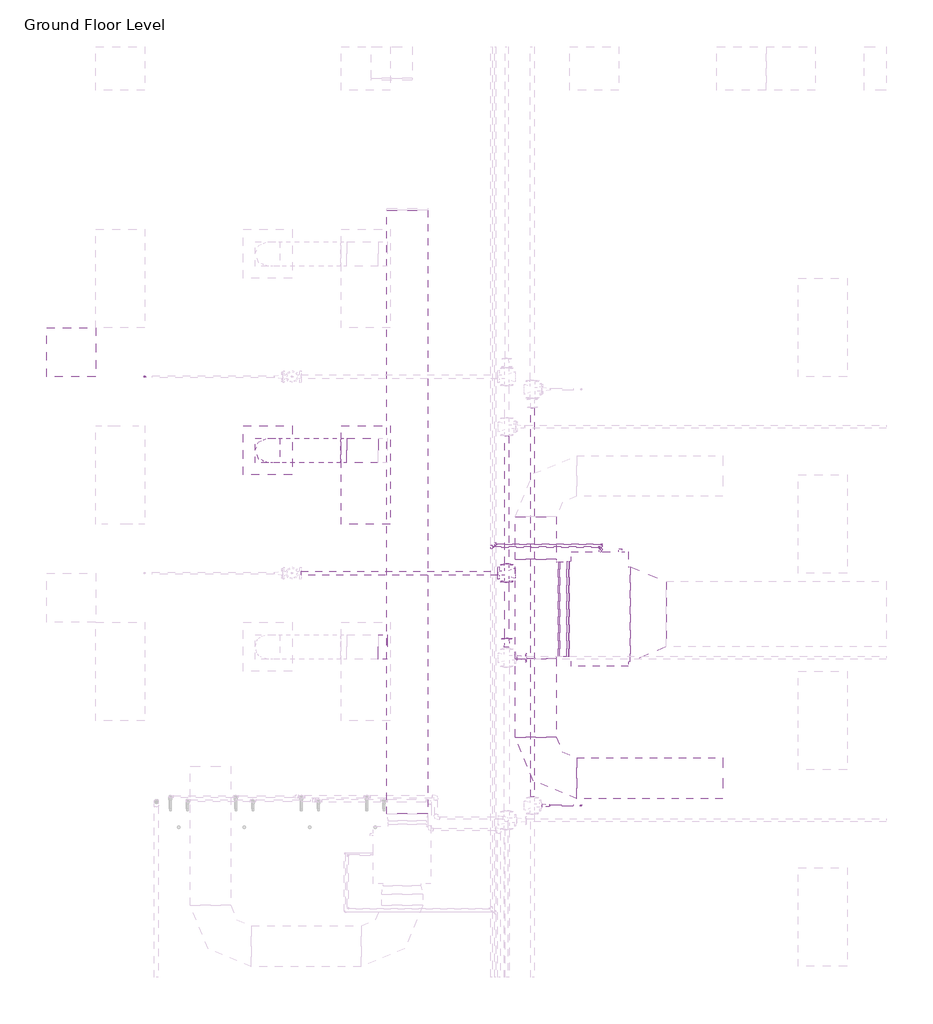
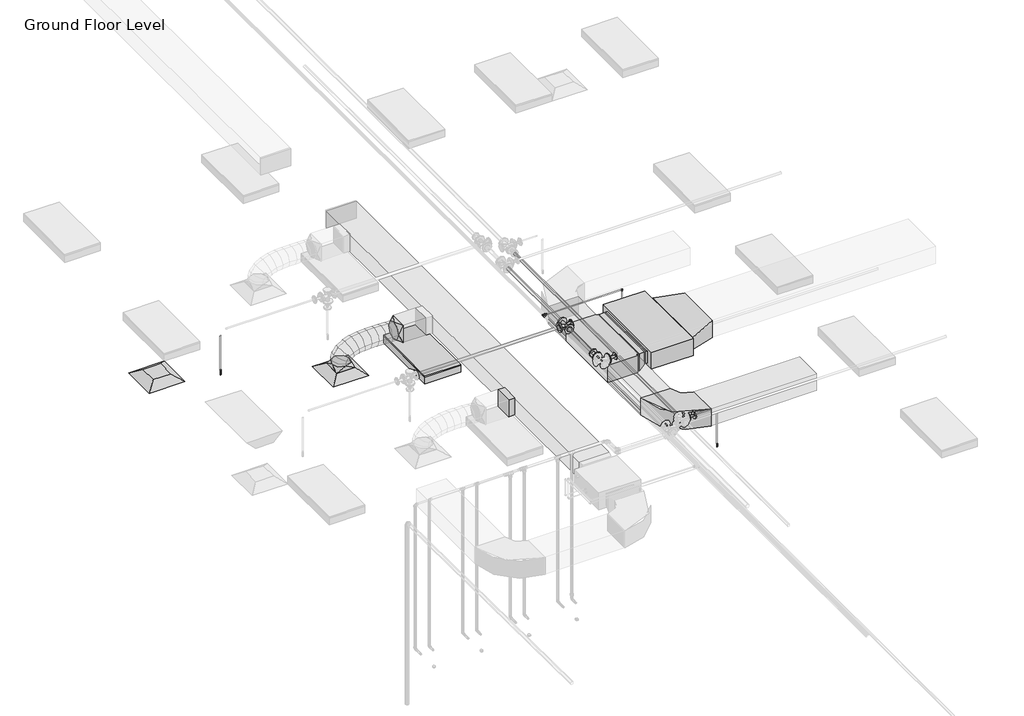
# One storey, part 26 of 75: 14 pipe fittings, 13 pipe segments, 8 duct fittings, 8 duct segments, 2 air terminals, 2 fire suppression terminals, 1 light fixture, 1 proxy.
"""IFC4 building model written with IfcOpenShell, lengths in millimetres."""

from ifc_helpers import new_model, si_unit, point, frame, frame_2d, origin, place, context, project, spatial, polyline, circle_curve, ellipse_curve, trimmed, segment, composite_curve, outline, extrude, transform, mapped, element, save
from ifc_brep_helpers import plane_surface, cylinder_surface, advanced_brep
from components import m_return_diffuser_600_x_600_face_300_x_300_connection_ff221211, fcu_daikin_iu_5a1bd61d, m_rectangular_elbow_radius_1_w_abe20169, m_rectangular_takeoff_standard_cb0ccb98, m_rectangular_tee_standard_c717c13b, m_rectangular_transition_angle_45_degree_d2868699, m_rectangular_transition_angle_45_degree_3270bfc3, m_rectangular_transition_angle_45_degree_83bbb609, m_rectangular_to_round_transition_angle_45_degree_641efff0, m_sprinkler_dry_pendent_hosted_15_mm_dry_pendent_9bda8e11, m_sprinkler_pendent_15_mm_pendent_06fcbd8e, m_troffer_light_parabolic_rectangular1_0600x1200mm_4_lamp_86473d4a, m_elbow_generic_standard_a088f956, m_elbow_generic_standard_2a704253, m_elbow_generic_standard_411ee063, m_elbow_generic_standard_a67d3ed8, m_reducer_flanged_cs_class_150_standard_cc2a7c1d, m_reducer_flanged_cs_class_150_standard_3ab32b2b, m_reducer_flanged_cs_class_150_standard_a7631c35, m_tee_generic_standard_5b2ed4d4, m_tee_generic_standard_5078887e, m_tee_round_base_flanged_cs_class_150_standard_ab36f383, m_transition_generic_standard_5f8a9689, m_transition_generic_standard_bdcfe2c1, m_transition_generic_standard_44e35838, m_transition_generic_standard_570aa73b

model = new_model("IFC4")

# Units and contexts
model_context = context("Model", 3, world=origin())
ifc_project = project(units=[si_unit("LENGTHUNIT", "METRE", prefix="MILLI")], contexts=[model_context])

# Site, building, storey
site = spatial("IfcSite", under=ifc_project)
building = spatial("IfcBuilding", under=site)
storey = spatial("IfcBuildingStorey", under=building, Name="Ground Floor Level", Elevation=900.0)

# Air terminals
placement = place(None, origin())
m_return_diffuser_600_x_600_face_300_x_300_connection_shape = m_return_diffuser_600_x_600_face_300_x_300_connection_ff221211(model_context)
element("IfcAirTerminal", 1, ObjectType="M_Return Diffuser : 600 x 600 Face 300 x 300 Connection", at=placement, inside=storey, context=model_context, shape_type="MappedRepresentation", body=[
    mapped(m_return_diffuser_600_x_600_face_300_x_300_connection_shape, transform((362.7672395, -18364.7846466, 3650.0), x_axis=(1.0, 0.0, 0.0), y_axis=(0.0, 1.0, 0.0), z_axis=(0.0, 0.0, 1.0))),
])
element("IfcAirTerminal", 2, ObjectType="M_Supply Diffuser : 600 x 600 Face 300 x 300 Connection", at=placement, inside=storey, context=model_context, shape_type="MappedRepresentation", body=[
    mapped(m_return_diffuser_600_x_600_face_300_x_300_connection_shape, transform((2762.7672395, -19564.7846466, 3650.0), x_axis=(1.0, 0.0, 0.0), y_axis=(0.0, 1.0, 0.0), z_axis=(0.0, 0.0, 1.0))),
])

# Proxy
fcu_daikin_iu_shape = fcu_daikin_iu_5a1bd61d(model_context)
element("IfcBuildingElementProxy", 3, Name="FCU-DAIKIN IU : 9kW, 230V/50Hz/1Ph", ObjectType="FCU-DAIKIN IU : 9kW, 230V/50Hz/1Ph", at=placement, inside=storey, context=model_context, shape_type="MappedRepresentation", body=[
    mapped(fcu_daikin_iu_shape, transform((6820.4959647, -21503.0689179, 3984.0882279), x_axis=(0.0, 1.0, 0.0), y_axis=(-1.0, 0.0, 0.0), z_axis=(0.0, 0.0, 1.0))),
])

# Duct fittings
m_rectangular_elbow_radius_1_w_shape = m_rectangular_elbow_radius_1_w_abe20169(model_context)
element("IfcDuctFitting", 4, ObjectType="M_Rectangular Elbow - Radius : 1 W", at=placement, inside=storey, context=model_context, shape_type="MappedRepresentation", body=[
    mapped(m_rectangular_elbow_radius_1_w_shape, transform((6040.9897768, -23568.5689179, 4082.4543707), x_axis=(0.0, -1.0, 0.0), y_axis=(1.0, 0.0, 0.0), z_axis=(0.0, 0.0, 1.0))),
])
m_rectangular_takeoff_standard_shape = m_rectangular_takeoff_standard_cb0ccb98(model_context)
element("IfcDuctFitting", 5, ObjectType="M_Rectangular Takeoff : Standard", at=placement, inside=storey, context=model_context, shape_type="MappedRepresentation", body=[
    mapped(m_rectangular_takeoff_standard_shape, transform((4219.1581832, -21964.7846466, 4057.1519579), x_axis=(-1.0, 0.0, 0.0), y_axis=(0.0, 1.0, 0.0), z_axis=(0.0, 0.0, -1.0))),
])
m_rectangular_tee_standard_shape = m_rectangular_tee_standard_c717c13b(model_context)
element("IfcDuctFitting", 6, ObjectType="M_Rectangular Tee : Standard", at=placement, inside=storey, context=model_context, shape_type="MappedRepresentation", body=[
    mapped(m_rectangular_tee_standard_shape, transform((6040.9973279, -21503.0689179, 4082.4405262), x_axis=(0.0, -1.0, 0.0), y_axis=(-1.0, 0.0, 0.0), z_axis=(0.0, 0.0, -1.0))),
])
m_rectangular_transition_angle_45_degree_shape = m_rectangular_transition_angle_45_degree_d2868699(model_context)
element("IfcDuctFitting", 7, ObjectType="M_Rectangular Transition - Angle : 45 Degree", at=placement, inside=storey, context=model_context, shape_type="MappedRepresentation", body=[
    mapped(m_rectangular_transition_angle_45_degree_shape, transform((7195.8959647, -21566.5689179, 4150.0007279), x_axis=(1.0, 0.0, 0.0), y_axis=(0.0, 1.0, 0.0), z_axis=(0.0, 0.0, 1.0))),
])
m_rectangular_transition_angle_45_degree_2_shape = m_rectangular_transition_angle_45_degree_3270bfc3(model_context)
element("IfcDuctFitting", 8, ObjectType="M_Rectangular Transition - Angle : 45 Degree", at=placement, inside=storey, context=model_context, shape_type="MappedRepresentation", body=[
    mapped(m_rectangular_transition_angle_45_degree_2_shape, transform((6445.0959647, -21503.0689179, 4125.2882279), x_axis=(-1.0, 0.0, 0.0), y_axis=(0.0, -1.0, 0.0), z_axis=(0.0, 0.0, 1.0))),
])
m_rectangular_transition_angle_45_degree_3_shape = m_rectangular_transition_angle_45_degree_83bbb609(model_context)
element("IfcDuctFitting", 9, ObjectType="M_Rectangular Transition - Angle : 45 Degree", at=placement, inside=storey, context=model_context, shape_type="MappedRepresentation", body=[
    mapped(m_rectangular_transition_angle_45_degree_3_shape, transform((6416.9897764, -21503.0689179, 4125.4405264), x_axis=(-1.0, 0.0, 0.0), y_axis=(0.0, -1.0, 0.0), z_axis=(0.0, 0.0, 1.0))),
])
m_rectangular_to_round_transition_angle_45_degree_shape = m_rectangular_to_round_transition_angle_45_degree_641efff0(model_context)
element("IfcDuctFitting", 10, ObjectType="M_Rectangular to Round Transition - Angle : 45 Degree", at=placement, inside=storey, context=model_context, shape_type="MappedRepresentation", body=[
    mapped(m_rectangular_to_round_transition_angle_45_degree_shape, transform((2762.7672395, -19564.7846466, 3751.6), x_axis=(0.0, 0.0, 1.0), y_axis=(-1.0, 0.0, 0.0), z_axis=(0.0, -1.0, 0.0))),
])
element("IfcDuctFitting", 11, ObjectType="M_Rectangular to Round Transition - Angle : 45 Degree", at=placement, inside=storey, context=model_context, shape_type="MappedRepresentation", body=[
    mapped(m_rectangular_to_round_transition_angle_45_degree_shape, transform((3732.9552689, -19564.7846466, 4057.1479019), x_axis=(-1.0, 0.0, 0.0), y_axis=(0.0, -1.0, 0.0), z_axis=(0.0, 0.0, 1.0))),
])

# Duct segments
element("IfcDuctSegment", 12, ObjectType="Flex - Round", at=placement, inside=storey, context=model_context, shape_type="AdvancedBrep", body=[
    advanced_brep(
    [(2912.7672395, -19564.7846466, 3826.6), (2762.7672395, -19714.7846466, 3826.6), (2612.7672395, -19564.7846466, 3826.6), (2762.7672395, -19414.7846466, 3826.6), (2912.7672395, -19564.7846466, 3832.8904098), (2762.7672395, -19714.7846466, 3856.8495224), (2612.7672395, -19564.7846466, 3880.8086351), (2762.7672395, -19414.7846466, 3856.8495224), (2914.0858346, -19564.7846466, 3836.9127437), (2779.5129112, -19714.7846466, 3907.9316792), (2644.9399878, -19564.7846466, 3978.9506146), (2779.5129112, -19414.7846466, 3907.9316792), (2928.1335887, -19564.7846466, 3855.2238886), (2826.2860191, -19714.7846466, 3968.9000837), (2724.4384494, -19564.7846466, 4082.5762788), (2826.2860191, -19414.7846466, 3968.9000837), (2960.0751433, -19564.7846466, 3874.5771306), (2897.8907021, -19714.7846466, 4012.2850341), (2835.706261, -19564.7846466, 4149.9929377), (2897.8907021, -19414.7846466, 4012.2850341), (3023.3472749, -19564.7846466, 3894.3973079), (2989.1310994, -19714.7846466, 4040.8663511), (2954.9149239, -19564.7846466, 4187.3353943), (2989.1310994, -19414.7846466, 4040.8663511), (3111.2181676, -19564.7846466, 3908.1645223), (3094.81135, -19714.7846466, 4057.4238552), (3078.4045323, -19564.7846466, 4206.6831881), (3094.81135, -19414.7846466, 4057.4238552), (3215.0384102, -19564.7846466, 3914.7714012), (3209.7355929, -19714.7846466, 4064.7373669), (3204.4327755, -19564.7846466, 4214.7033325), (3209.7355929, -19414.7846466, 4064.7373669), (3327.4389939, -19564.7846466, 3915.5738253), (3328.7079672, -19714.7846466, 4065.5867068), (3329.9769404, -19564.7846466, 4215.5995883), (3328.7079672, -19414.7846466, 4065.5867068), (3442.2140413, -19564.7846466, 3912.8121913), (3446.5326119, -19714.7846466, 4062.7516956), (3450.8511825, -19564.7846466, 4212.6911999), (3446.5326119, -19414.7846466, 4062.7516956), (3554.0600336, -19564.7846466, 3909.0604079), (3558.0136661, -19714.7846466, 4059.0121538), (3561.9672986, -19564.7846466, 4208.9638996), (3558.0136661, -19414.7846466, 4059.0121538), (3657.9552689, -19564.7846466, 3907.1479019), (3657.9552689, -19414.7846466, 4057.1479019), (3657.9552689, -19564.7846466, 4207.1479019), (3657.9552689, -19714.7846466, 4057.1479019), (3653.7185823, -19564.7846466, 3907.1479019), (3655.1577438, -19714.7846466, 4057.1479019), (3656.5969053, -19564.7846466, 4207.1479019), (3655.1577438, -19414.7846466, 4057.1479019)],
    [
        (0, 1, circle_curve(frame((2762.7672395, -19564.7846466, 3826.6), z_axis=(0.0, 0.0, -1.0), x_axis=(1.0, 0.0, 0.0)), 150.0)),
        (1, 2, circle_curve(frame((2762.7672395, -19564.7846466, 3826.6), z_axis=(0.0, 0.0, -1.0), x_axis=(1.0, 0.0, 0.0)), 150.0)),
        (2, 3, circle_curve(frame((2762.7672395, -19564.7846466, 3826.6), z_axis=(0.0, 0.0, -1.0), x_axis=(1.0, 0.0, 0.0)), 150.0)),
        (3, 0, circle_curve(frame((2762.7672395, -19564.7846466, 3826.6), z_axis=(0.0, 0.0, -1.0), x_axis=(1.0, 0.0, 0.0)), 150.0)),
        (0, 4),
        (4, 5, ellipse_curve(frame((2762.7672395, -19564.7846466, 3856.8495224), z_axis=(-0.157728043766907, 0.0, -0.9874825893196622), x_axis=(0.9874825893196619, 0.0, -0.15772804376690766)), 151.9014124, 150.0)),
        (5, 1),
        (5, 6, ellipse_curve(frame((2762.7672395, -19564.7846466, 3856.8495224), z_axis=(-0.157728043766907, 0.0, -0.9874825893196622), x_axis=(0.9874825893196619, 0.0, -0.15772804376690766)), 151.9014124, 150.0)),
        (6, 2),
        (6, 7, ellipse_curve(frame((2762.7672395, -19564.7846466, 3856.8495224), z_axis=(-0.157728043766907, 0.0, -0.9874825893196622), x_axis=(0.9874825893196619, 0.0, -0.15772804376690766)), 151.9014124, 150.0)),
        (7, 3),
        (7, 4, ellipse_curve(frame((2762.7672395, -19564.7846466, 3856.8495224), z_axis=(-0.157728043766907, 0.0, -0.9874825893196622), x_axis=(0.9874825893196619, 0.0, -0.15772804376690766)), 151.9014124, 150.0)),
        (4, 8),
        (8, 9, ellipse_curve(frame((2779.5129112, -19564.7846466, 3907.9316792), z_axis=(-0.4667295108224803, 0.0, -0.8844001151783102), x_axis=(0.8844001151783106, 0.0, -0.46672951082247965)), 152.162942, 150.0)),
        (9, 5),
        (9, 10, ellipse_curve(frame((2779.5129112, -19564.7846466, 3907.9316792), z_axis=(-0.4667295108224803, 0.0, -0.8844001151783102), x_axis=(0.8844001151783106, 0.0, -0.46672951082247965)), 152.162942, 150.0)),
        (10, 6),
        (10, 11, ellipse_curve(frame((2779.5129112, -19564.7846466, 3907.9316792), z_axis=(-0.4667295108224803, 0.0, -0.8844001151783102), x_axis=(0.8844001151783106, 0.0, -0.46672951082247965)), 152.162942, 150.0)),
        (11, 7),
        (11, 8, ellipse_curve(frame((2779.5129112, -19564.7846466, 3907.9316792), z_axis=(-0.4667295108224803, 0.0, -0.8844001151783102), x_axis=(0.8844001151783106, 0.0, -0.46672951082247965)), 152.162942, 150.0)),
        (8, 12),
        (12, 13, ellipse_curve(frame((2826.2860191, -19564.7846466, 3968.9000837), z_axis=(-0.7447941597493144, 0.0, -0.667294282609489), x_axis=(0.6672942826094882, 0.0, -0.7447941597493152)), 152.6276671, 150.0)),
        (13, 9),
        (13, 14, ellipse_curve(frame((2826.2860191, -19564.7846466, 3968.9000837), z_axis=(-0.7447941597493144, 0.0, -0.667294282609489), x_axis=(0.6672942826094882, 0.0, -0.7447941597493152)), 152.6276671, 150.0)),
        (14, 10),
        (14, 15, ellipse_curve(frame((2826.2860191, -19564.7846466, 3968.9000837), z_axis=(-0.7447941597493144, 0.0, -0.667294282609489), x_axis=(0.6672942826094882, 0.0, -0.7447941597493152)), 152.6276671, 150.0)),
        (15, 11),
        (15, 12, ellipse_curve(frame((2826.2860191, -19564.7846466, 3968.9000837), z_axis=(-0.7447941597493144, 0.0, -0.667294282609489), x_axis=(0.6672942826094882, 0.0, -0.7447941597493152)), 152.6276671, 150.0)),
        (12, 16),
        (16, 17, ellipse_curve(frame((2897.8907021, -19564.7846466, 4012.2850341), z_axis=(-0.9113860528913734, 0.0, -0.4115525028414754), x_axis=(0.4115525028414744, 0.0, -0.911386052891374)), 151.097225, 150.0)),
        (17, 13),
        (17, 18, ellipse_curve(frame((2897.8907021, -19564.7846466, 4012.2850341), z_axis=(-0.9113860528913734, 0.0, -0.4115525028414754), x_axis=(0.4115525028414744, 0.0, -0.911386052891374)), 151.097225, 150.0)),
        (18, 14),
        (18, 19, ellipse_curve(frame((2897.8907021, -19564.7846466, 4012.2850341), z_axis=(-0.9113860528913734, 0.0, -0.4115525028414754), x_axis=(0.4115525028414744, 0.0, -0.911386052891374)), 151.097225, 150.0)),
        (19, 15),
        (19, 16, ellipse_curve(frame((2897.8907021, -19564.7846466, 4012.2850341), z_axis=(-0.9113860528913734, 0.0, -0.4115525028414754), x_axis=(0.4115525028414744, 0.0, -0.911386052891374)), 151.097225, 150.0)),
        (16, 20),
        (20, 21, ellipse_curve(frame((2989.1310994, -19564.7846466, 4040.8663511), z_axis=(-0.9737822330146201, 0.0, -0.2274822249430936), x_axis=(0.22748222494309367, 0.0, -0.9737822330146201)), 150.4125237, 150.0)),
        (21, 17),
        (21, 22, ellipse_curve(frame((2989.1310994, -19564.7846466, 4040.8663511), z_axis=(-0.9737822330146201, 0.0, -0.2274822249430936), x_axis=(0.22748222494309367, 0.0, -0.9737822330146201)), 150.4125237, 150.0)),
        (22, 18),
        (22, 23, ellipse_curve(frame((2989.1310994, -19564.7846466, 4040.8663511), z_axis=(-0.9737822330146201, 0.0, -0.2274822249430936), x_axis=(0.22748222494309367, 0.0, -0.9737822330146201)), 150.4125237, 150.0)),
        (23, 19),
        (23, 20, ellipse_curve(frame((2989.1310994, -19564.7846466, 4040.8663511), z_axis=(-0.9737822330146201, 0.0, -0.2274822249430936), x_axis=(0.22748222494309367, 0.0, -0.9737822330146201)), 150.4125237, 150.0)),
        (20, 24),
        (24, 25, ellipse_curve(frame((3094.81135, -19564.7846466, 4057.4238552), z_axis=(-0.9940128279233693, 0.0, -0.10926343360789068), x_axis=(0.10926343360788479, 0.0, -0.9940128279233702)), 150.1583568, 150.0)),
        (25, 21),
        (25, 26, ellipse_curve(frame((3094.81135, -19564.7846466, 4057.4238552), z_axis=(-0.9940128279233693, 0.0, -0.10926343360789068), x_axis=(0.10926343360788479, 0.0, -0.9940128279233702)), 150.1583568, 150.0)),
        (26, 22),
        (26, 27, ellipse_curve(frame((3094.81135, -19564.7846466, 4057.4238552), z_axis=(-0.9940128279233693, 0.0, -0.10926343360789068), x_axis=(0.10926343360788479, 0.0, -0.9940128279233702)), 150.1583568, 150.0)),
        (27, 23),
        (27, 24, ellipse_curve(frame((3094.81135, -19564.7846466, 4057.4238552), z_axis=(-0.9940128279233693, 0.0, -0.10926343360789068), x_axis=(0.10926343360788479, 0.0, -0.9940128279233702)), 150.1583568, 150.0)),
        (24, 28),
        (28, 29, ellipse_curve(frame((3209.7355929, -19564.7846466, 4064.7373669), z_axis=(-0.9993754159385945, 0.0, -0.03533805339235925), x_axis=(0.03533805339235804, 0.0, -0.9993754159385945)), 150.0596906, 150.0)),
        (29, 25),
        (29, 30, ellipse_curve(frame((3209.7355929, -19564.7846466, 4064.7373669), z_axis=(-0.9993754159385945, 0.0, -0.03533805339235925), x_axis=(0.03533805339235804, 0.0, -0.9993754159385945)), 150.0596906, 150.0)),
        (30, 26),
        (30, 31, ellipse_curve(frame((3209.7355929, -19564.7846466, 4064.7373669), z_axis=(-0.9993754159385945, 0.0, -0.03533805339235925), x_axis=(0.03533805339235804, 0.0, -0.9993754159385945)), 150.0596906, 150.0)),
        (31, 27),
        (31, 28, ellipse_curve(frame((3209.7355929, -19564.7846466, 4064.7373669), z_axis=(-0.9993754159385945, 0.0, -0.03533805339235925), x_axis=(0.03533805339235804, 0.0, -0.9993754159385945)), 150.0596906, 150.0)),
        (28, 32),
        (32, 33, ellipse_curve(frame((3328.7079672, -19564.7846466, 4065.5867068), z_axis=(-0.9999642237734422, 0.0, 0.008458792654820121), x_axis=(-0.008458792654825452, 0.0, -0.9999642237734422)), 150.0182486, 150.0)),
        (33, 29),
        (33, 34, ellipse_curve(frame((3328.7079672, -19564.7846466, 4065.5867068), z_axis=(-0.9999642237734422, 0.0, 0.008458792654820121), x_axis=(-0.008458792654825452, 0.0, -0.9999642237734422)), 150.0182486, 150.0)),
        (34, 30),
        (34, 35, ellipse_curve(frame((3328.7079672, -19564.7846466, 4065.5867068), z_axis=(-0.9999642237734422, 0.0, 0.008458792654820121), x_axis=(-0.008458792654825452, 0.0, -0.9999642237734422)), 150.0182486, 150.0)),
        (35, 31),
        (35, 32, ellipse_curve(frame((3328.7079672, -19564.7846466, 4065.5867068), z_axis=(-0.9999642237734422, 0.0, 0.008458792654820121), x_axis=(-0.008458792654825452, 0.0, -0.9999642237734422)), 150.0182486, 150.0)),
        (32, 36),
        (36, 37, ellipse_curve(frame((3446.5326119, -19564.7846466, 4062.7516956), z_axis=(-0.9995854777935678, 0.0, 0.02879014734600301), x_axis=(-0.028790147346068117, 0.0, -0.999585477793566)), 150.0016833, 150.0)),
        (37, 33),
        (37, 38, ellipse_curve(frame((3446.5326119, -19564.7846466, 4062.7516956), z_axis=(-0.9995854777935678, 0.0, 0.02879014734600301), x_axis=(-0.028790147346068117, 0.0, -0.999585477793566)), 150.0016833, 150.0)),
        (38, 34),
        (38, 39, ellipse_curve(frame((3446.5326119, -19564.7846466, 4062.7516956), z_axis=(-0.9995854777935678, 0.0, 0.02879014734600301), x_axis=(-0.028790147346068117, 0.0, -0.999585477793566)), 150.0016833, 150.0)),
        (39, 35),
        (39, 36, ellipse_curve(frame((3446.5326119, -19564.7846466, 4062.7516956), z_axis=(-0.9995854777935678, 0.0, 0.02879014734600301), x_axis=(-0.028790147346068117, 0.0, -0.999585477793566)), 150.0016833, 150.0)),
        (36, 40),
        (40, 41, ellipse_curve(frame((3558.0136661, -19564.7846466, 4059.0121538), z_axis=(-0.999652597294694, 0.0, 0.026356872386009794), x_axis=(0.02635687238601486, 0.0, 0.9996525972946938)), 150.0038576, 150.0)),
        (41, 37),
        (41, 42, ellipse_curve(frame((3558.0136661, -19564.7846466, 4059.0121538), z_axis=(-0.999652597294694, 0.0, 0.026356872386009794), x_axis=(0.02635687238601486, 0.0, 0.9996525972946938)), 150.0038576, 150.0)),
        (42, 38),
        (42, 43, ellipse_curve(frame((3558.0136661, -19564.7846466, 4059.0121538), z_axis=(-0.999652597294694, 0.0, 0.026356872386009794), x_axis=(0.02635687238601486, 0.0, 0.9996525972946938)), 150.0038576, 150.0)),
        (43, 39),
        (43, 40, ellipse_curve(frame((3558.0136661, -19564.7846466, 4059.0121538), z_axis=(-0.999652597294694, 0.0, 0.026356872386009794), x_axis=(0.02635687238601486, 0.0, 0.9996525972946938)), 150.0038576, 150.0)),
        (44, 45, circle_curve(frame((3657.9552689, -19564.7846466, 4057.1479019), z_axis=(1.0, 0.0, 0.0), x_axis=(0.0, 0.0, -1.0)), 150.0)),
        (45, 46, circle_curve(frame((3657.9552689, -19564.7846466, 4057.1479019), z_axis=(1.0, 0.0, 0.0), x_axis=(0.0, 0.0, -1.0)), 150.0)),
        (46, 47, circle_curve(frame((3657.9552689, -19564.7846466, 4057.1479019), z_axis=(1.0, 0.0, 0.0), x_axis=(0.0, 0.0, -1.0)), 150.0)),
        (47, 44, circle_curve(frame((3657.9552689, -19564.7846466, 4057.1479019), z_axis=(1.0, 0.0, 0.0), x_axis=(0.0, 0.0, -1.0)), 150.0)),
        (40, 48),
        (48, 49, ellipse_curve(frame((3655.1577438, -19564.7846466, 4057.1479019), z_axis=(-0.9999539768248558, 0.0, 0.009593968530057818), x_axis=(0.009593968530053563, 0.0, 0.9999539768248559)), 150.0069038, 150.0)),
        (49, 41),
        (49, 50, ellipse_curve(frame((3655.1577438, -19564.7846466, 4057.1479019), z_axis=(-0.9999539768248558, 0.0, 0.009593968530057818), x_axis=(0.009593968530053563, 0.0, 0.9999539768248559)), 150.0069038, 150.0)),
        (50, 42),
        (50, 51, ellipse_curve(frame((3655.1577438, -19564.7846466, 4057.1479019), z_axis=(-0.9999539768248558, 0.0, 0.009593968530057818), x_axis=(0.009593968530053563, 0.0, 0.9999539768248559)), 150.0069038, 150.0)),
        (51, 43),
        (51, 48, ellipse_curve(frame((3655.1577438, -19564.7846466, 4057.1479019), z_axis=(-0.9999539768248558, 0.0, 0.009593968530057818), x_axis=(0.009593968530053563, 0.0, 0.9999539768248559)), 150.0069038, 150.0)),
        (48, 44),
        (47, 49),
        (46, 50),
        (45, 51),
    ],
    [
        plane_surface(frame((2762.7672395, -19714.7846466, 3826.6), z_axis=(0.0, 0.0, -1.0), x_axis=(1.0, 0.0, 0.0))),
        cylinder_surface(frame((2762.7672395, -19564.7846466, 3826.6), z_axis=(0.0, 0.0, -1.0), x_axis=(1.0, 0.0, 0.0)), 150.0),
        cylinder_surface(frame((2762.7672395, -19564.7846466, 3856.8495224), z_axis=(-0.3115073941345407, 0.0, -0.9502437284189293), x_axis=(0.9502437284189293, 0.0, -0.3115073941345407)), 150.0),
        cylinder_surface(frame((2779.5129112, -19564.7846466, 3907.9316792), z_axis=(-0.6086828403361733, 0.0, -0.7934136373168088), x_axis=(0.7934136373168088, 0.0, -0.6086828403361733)), 150.0),
        cylinder_surface(frame((2826.2860191, -19564.7846466, 3968.9000837), z_axis=(-0.8552604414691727, 0.0, -0.5181983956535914), x_axis=(0.5181983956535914, 0.0, -0.8552604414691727)), 150.0),
        cylinder_surface(frame((2897.8907021, -19564.7846466, 4012.2850341), z_axis=(-0.9542752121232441, 0.0, -0.29892945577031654), x_axis=(0.29892945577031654, 0.0, -0.9542752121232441)), 150.0),
        cylinder_surface(frame((2989.1310994, -19564.7846466, 4040.8663511), z_axis=(-0.9879478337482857, 0.0, -0.1547872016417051), x_axis=(0.1547872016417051, 0.0, -0.9879478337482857)), 150.0),
        cylinder_surface(frame((3094.81135, -19564.7846466, 4057.4238552), z_axis=(-0.9979812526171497, 0.0, -0.06350920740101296), x_axis=(0.06350920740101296, 0.0, -0.9979812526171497)), 150.0),
        cylinder_surface(frame((3209.7355929, -19564.7846466, 4064.7373669), z_axis=(-0.999974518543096, 0.0, -0.007138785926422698), x_axis=(0.007138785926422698, 0.0, -0.999974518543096)), 150.0),
        cylinder_surface(frame((3328.7079672, -19564.7846466, 4065.5867068), z_axis=(-0.9997106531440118, 0.0, 0.024054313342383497), x_axis=(-0.024054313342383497, 0.0, -0.9997106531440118)), 150.0),
        cylinder_surface(frame((3446.5326119, -19564.7846466, 4062.7516956), z_axis=(-0.9994378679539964, 0.0, 0.0335253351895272), x_axis=(-0.0335253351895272, 0.0, -0.9994378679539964)), 150.0),
        plane_surface(frame((3657.9552689, -19564.7846466, 3907.1479019), z_axis=(1.0, 0.0, 0.0), x_axis=(0.0, 1.0, 0.0))),
        cylinder_surface(frame((3558.0136661, -19564.7846466, 4059.0121538), z_axis=(-0.9998159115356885, 0.0, 0.01918705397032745), x_axis=(-0.01918705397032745, 0.0, -0.9998159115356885)), 150.0),
        cylinder_surface(frame((3655.1577438, -19564.7846466, 4057.1479019), z_axis=(-1.0, 0.0, 0.0), x_axis=(0.0, 0.0, -1.0)), 150.0),
    ],
    [
        (0, [[1, 2, 3, 4]]),
        (1, [[-1, 5, 6, 7]]),
        (1, [[-2, -7, 8, 9]]),
        (1, [[-3, -9, 10, 11]]),
        (1, [[-4, -11, 12, -5]]),
        (2, [[-6, 13, 14, 15]]),
        (2, [[-8, -15, 16, 17]]),
        (2, [[-10, -17, 18, 19]]),
        (2, [[-12, -19, 20, -13]]),
        (3, [[-14, 21, 22, 23]]),
        (3, [[-16, -23, 24, 25]]),
        (3, [[-18, -25, 26, 27]]),
        (3, [[-20, -27, 28, -21]]),
        (4, [[-22, 29, 30, 31]]),
        (4, [[-24, -31, 32, 33]]),
        (4, [[-26, -33, 34, 35]]),
        (4, [[-28, -35, 36, -29]]),
        (5, [[-30, 37, 38, 39]]),
        (5, [[-32, -39, 40, 41]]),
        (5, [[-34, -41, 42, 43]]),
        (5, [[-36, -43, 44, -37]]),
        (6, [[-38, 45, 46, 47]]),
        (6, [[-40, -47, 48, 49]]),
        (6, [[-42, -49, 50, 51]]),
        (6, [[-44, -51, 52, -45]]),
        (7, [[-46, 53, 54, 55]]),
        (7, [[-48, -55, 56, 57]]),
        (7, [[-50, -57, 58, 59]]),
        (7, [[-52, -59, 60, -53]]),
        (8, [[-54, 61, 62, 63]]),
        (8, [[-56, -63, 64, 65]]),
        (8, [[-58, -65, 66, 67]]),
        (8, [[-60, -67, 68, -61]]),
        (9, [[-62, 69, 70, 71]]),
        (9, [[-64, -71, 72, 73]]),
        (9, [[-66, -73, 74, 75]]),
        (9, [[-68, -75, 76, -69]]),
        (10, [[-70, 77, 78, 79]]),
        (10, [[-72, -79, 80, 81]]),
        (10, [[-74, -81, 82, 83]]),
        (10, [[-76, -83, 84, -77]]),
        (11, [[85, 86, 87, 88]]),
        (12, [[-78, 89, 90, 91]]),
        (12, [[-80, -91, 92, 93]]),
        (12, [[-82, -93, 94, 95]]),
        (12, [[-84, -95, 96, -89]]),
        (13, [[-90, 97, -88, 98]]),
        (13, [[-92, -98, -87, 99]]),
        (13, [[-94, -99, -86, 100]]),
        (13, [[-96, -100, -85, -97]]),
    ],
),
])
element("IfcDuctSegment", 13, ObjectType="Radius Elbows / Taps", at=placement, inside=storey, context=model_context, shape_type="SweptSolid", body=[
    extrude(outline(polyline([(0.0, -500.0), (0.0, 0.0), (7371.604175, 0.0), (7371.604175, -500.0), (0.0, -500.0)])), frame((4719.1581832, -16631.8629481, 3907.1429453), z_axis=(0.0, 1.6199957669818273e-06, 0.9999999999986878), x_axis=(0.0, -0.9999999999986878, 1.6199957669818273e-06)), (0.0, 0.0, 1.0), 300.0),
])
element("IfcDuctSegment", 14, ObjectType="Radius Elbows / Taps", at=placement, inside=storey, context=model_context, shape_type="SweptSolid", body=[
    extrude(outline(polyline([(6290.9897768, -20897.5689179), (5790.9897768, -20897.5689179), (5790.9897768, -20377.6206315), (6290.9897768, -20377.6206315), (6290.9897768, -20897.5689179)])), frame((0.0, 0.0, 3932.4543707), z_axis=(0.0, 0.0, 1.0), x_axis=(1.0, 0.0, 0.0)), (0.0, 0.0, 1.0), 300.0),
])
element("IfcDuctSegment", 15, ObjectType="Radius Elbows / Taps", at=placement, inside=storey, context=model_context, shape_type="SweptSolid", body=[
    extrude(outline(polyline([(5790.9897768, -22108.5689179), (6290.9897768, -22108.5689179), (6290.9897768, -23068.5689179), (5790.9897768, -23068.5689179), (5790.9897768, -22108.5689179)])), frame((0.0, 0.0, 3932.4543707), z_axis=(0.0, 0.0, 1.0), x_axis=(1.0, 0.0, 0.0)), (0.0, 0.0, 1.0), 300.0),
])
element("IfcDuctSegment", 16, ObjectType="Radius Elbows / Taps", at=placement, inside=storey, context=model_context, shape_type="SweptSolid", body=[
    extrude(outline(polyline([(6540.9897768, -23818.5689179), (6540.9897768, -23318.5689179), (8320.9897766, -23318.5689179), (8320.9897766, -23818.5689179), (6540.9897768, -23818.5689179)])), frame((0.0, 0.0, 3932.4543707), z_axis=(0.0, 0.0, 1.0), x_axis=(1.0, 0.0, 0.0)), (0.0, 0.0, 1.0), 300.0),
])
element("IfcDuctSegment", 17, ObjectType="Radius Elbows / Taps", at=placement, inside=storey, context=model_context, shape_type="SweptSolid", body=[
    extrude(outline(polyline([(6315.9897764, -22083.5689179), (6315.9897764, -20922.5689179), (6330.9897764, -20922.5689179), (6330.9897764, -22083.5689179), (6315.9897764, -22083.5689179)])), frame((0.0, 0.0, 3932.4405264), z_axis=(0.0, 0.0, 1.0), x_axis=(1.0, 0.0, 0.0)), (0.0, 0.0, 1.0), 300.0),
])
element("IfcDuctSegment", 18, ObjectType="Radius Elbows / Taps", at=placement, inside=storey, context=model_context, shape_type="SweptSolid", body=[
    extrude(outline(polyline([(6444.798299, -20922.0689179), (6444.798299, -22084.0689179), (6416.9897764, -22084.0689179), (6416.9897764, -20922.0689179), (6444.798299, -20922.0689179)])), frame((0.0, 0.0, 4018.4405264), z_axis=(0.0, 0.0, 1.0), x_axis=(1.0, 0.0, 0.0)), (0.0, 0.0, 1.0), 214.0),
])
element("IfcDuctSegment", 19, ObjectType="Radius Elbows / Taps", at=placement, inside=storey, context=model_context, shape_type="SweptSolid", body=[
    extrude(outline(polyline([(4117.5581832, -19414.7846466), (4117.5581832, -19714.7846466), (3732.9552689, -19714.7846466), (3732.9552689, -19414.7846466), (4117.5581832, -19414.7846466)])), frame((0.0, 0.0, 3907.1479019), z_axis=(0.0, 0.0, 1.0), x_axis=(1.0, 0.0, 0.0)), (0.0, 0.0, 1.0), 300.0),
])

# Fire suppression terminals
m_sprinkler_dry_pendent_hosted_15_mm_dry_pendent_shape = m_sprinkler_dry_pendent_hosted_15_mm_dry_pendent_9bda8e11(model_context)
element("IfcFireSuppressionTerminal", 20, ObjectType="M_Sprinkler - Dry - Pendent - Hosted : 15 mm Dry Pendent", at=placement, inside=storey, context=model_context, shape_type="MappedRepresentation", body=[
    mapped(m_sprinkler_dry_pendent_hosted_15_mm_dry_pendent_shape, transform((1262.7672395, -18664.7846466, 3650.0), x_axis=(1.0, 0.0, 0.0), y_axis=(0.0, -1.0, 0.0), z_axis=(0.0, 0.0, -1.0))),
])
m_sprinkler_pendent_15_mm_pendent_shape = m_sprinkler_pendent_15_mm_pendent_06fcbd8e(model_context)
element("IfcFireSuppressionTerminal", 21, ObjectType="M_Sprinkler - Pendent : 15 mm Pendent", at=placement, inside=storey, context=model_context, shape_type="MappedRepresentation", body=[
    mapped(m_sprinkler_pendent_15_mm_pendent_shape, transform((6592.5481019, -23903.6779349, 3650.0), x_axis=(1.0, 0.0, 0.0), y_axis=(0.0, 1.0, 0.0), z_axis=(0.0, 0.0, 1.0))),
])

# Light fixture
m_troffer_light_parabolic_rectangular1_0600x1200mm_4_lamp_shape = m_troffer_light_parabolic_rectangular1_0600x1200mm_4_lamp_86473d4a(model_context)
element("IfcLightFixture", 22, ObjectType="M_Troffer Light - Parabolic Rectangular1 : 0600x1200mm(4 Lamp) - 277V 2", at=placement, inside=storey, context=model_context, shape_type="MappedRepresentation", body=[
    mapped(m_troffer_light_parabolic_rectangular1_0600x1200mm_4_lamp_shape, transform((3903.3013074, -19846.081145, 3650.0), x_axis=(0.0, 1.0, 0.0), y_axis=(-1.0, 0.0, 0.0), z_axis=(0.0, 0.0, 1.0))),
])

# Pipe fittings
m_elbow_generic_standard_shape = m_elbow_generic_standard_a088f956(model_context)
element("IfcPipeFitting", 23, ObjectType="M_Elbow - Generic : Standard", at=placement, inside=storey, context=model_context, shape_type="MappedRepresentation", body=[
    mapped(m_elbow_generic_standard_shape, transform((6820.4959647, -20745.3977393, 4390.0), x_axis=(1.0, 0.0, 0.0), y_axis=(0.0, 0.0, -1.0), z_axis=(0.0, 1.0, 0.0))),
])
m_elbow_generic_standard_2_shape = m_elbow_generic_standard_2a704253(model_context)
element("IfcPipeFitting", 24, ObjectType="M_Elbow - Generic : Standard", at=placement, inside=storey, context=model_context, shape_type="MappedRepresentation", body=[
    mapped(m_elbow_generic_standard_2_shape, transform((6845.4959647, -20711.8462992, 4377.5), x_axis=(1.0, 0.0, 0.0), y_axis=(0.0, 0.0, -1.0), z_axis=(0.0, 1.0, 0.0))),
])
m_elbow_generic_standard_3_shape = m_elbow_generic_standard_411ee063(model_context)
element("IfcPipeFitting", 25, ObjectType="M_Elbow - Generic : Standard", at=placement, inside=storey, context=model_context, shape_type="MappedRepresentation", body=[
    mapped(m_elbow_generic_standard_3_shape, transform((6820.4959647, -20745.3896748, 4084.1050098), x_axis=(0.0, 0.0, -1.0), y_axis=(0.0, -1.0, 0.0), z_axis=(-1.0, 0.0, 0.0))),
])
m_elbow_generic_standard_4_shape = m_elbow_generic_standard_a67d3ed8(model_context)
element("IfcPipeFitting", 26, ObjectType="M_Elbow - Generic : Standard", at=placement, inside=storey, context=model_context, shape_type="MappedRepresentation", body=[
    mapped(m_elbow_generic_standard_4_shape, transform((6845.4959647, -20711.8400273, 4134.9034747), x_axis=(0.0, 0.0, -1.0), y_axis=(0.0, -1.0, 0.0), z_axis=(-1.0, 0.0, 0.0))),
])
m_reducer_flanged_cs_class_150_standard_shape = m_reducer_flanged_cs_class_150_standard_cc2a7c1d(model_context)
element("IfcPipeFitting", 27, ObjectType="M_Reducer - Flanged - CS - Class 150 : Standard", at=placement, inside=storey, context=model_context, shape_type="MappedRepresentation", body=[
    mapped(m_reducer_flanged_cs_class_150_standard_shape, transform((6103.1564057, -23903.6779349, 4291.2754753), x_axis=(1.0, 0.0, 0.0), y_axis=(0.0, 0.0, -1.0), z_axis=(0.0, 1.0, 0.0))),
])
m_reducer_flanged_cs_class_150_standard_2_shape = m_reducer_flanged_cs_class_150_standard_3ab32b2b(model_context)
element("IfcPipeFitting", 28, ObjectType="M_Reducer - Flanged - CS - Class 150 : Standard", at=placement, inside=storey, context=model_context, shape_type="MappedRepresentation", body=[
    mapped(m_reducer_flanged_cs_class_150_standard_2_shape, transform((5684.6174894, -21984.0287346, 4347.5), x_axis=(0.0, 1.0, 0.0), y_axis=(-1.0, 0.0, 0.0), z_axis=(0.0, 0.0, 1.0))),
])
m_reducer_flanged_cs_class_150_standard_3_shape = m_reducer_flanged_cs_class_150_standard_a7631c35(model_context)
element("IfcPipeFitting", 29, ObjectType="M_Reducer - Flanged - CS - Class 150 : Standard", at=placement, inside=storey, context=model_context, shape_type="MappedRepresentation", body=[
    mapped(m_reducer_flanged_cs_class_150_standard_3_shape, transform((5798.6174894, -22098.0287346, 4347.5), x_axis=(1.0, 0.0, 0.0), y_axis=(0.0, 0.0, 1.0), z_axis=(0.0, -1.0, 0.0))),
])
m_tee_generic_standard_shape = m_tee_generic_standard_5b2ed4d4(model_context)
element("IfcPipeFitting", 30, ObjectType="M_Tee - Generic : Standard", at=placement, inside=storey, context=model_context, shape_type="MappedRepresentation", body=[
    mapped(m_tee_generic_standard_shape, transform((5543.9904113, -20711.8462992, 4377.5), x_axis=(0.0, -1.0, 0.0), y_axis=(-1.0, 0.0, 0.0), z_axis=(0.0, 0.0, -1.0))),
])
m_tee_generic_standard_2_shape = m_tee_generic_standard_5078887e(model_context)
element("IfcPipeFitting", 31, ObjectType="M_Tee - Generic : Standard", at=placement, inside=storey, context=model_context, shape_type="MappedRepresentation", body=[
    mapped(m_tee_generic_standard_2_shape, transform((5497.8951827, -20745.3977393, 4390.0), x_axis=(0.0, -1.0, 0.0), y_axis=(-1.0, 0.0, 0.0), z_axis=(0.0, 0.0, -1.0))),
])
m_tee_round_base_flanged_cs_class_150_standard_shape = m_tee_round_base_flanged_cs_class_150_standard_ab36f383(model_context)
element("IfcPipeFitting", 32, ObjectType="M_Tee Round Base - Flanged - CS - Class 150 : Standard", at=placement, inside=storey, context=model_context, shape_type="MappedRepresentation", body=[
    mapped(m_tee_round_base_flanged_cs_class_150_standard_shape, transform((5684.6174894, -21064.7846466, 4347.5), x_axis=(0.0, -1.0, 0.0), y_axis=(1.0, 0.0, 0.0), z_axis=(0.0, 0.0, 1.0))),
])
m_transition_generic_standard_shape = m_transition_generic_standard_5f8a9689(model_context)
element("IfcPipeFitting", 33, ObjectType="M_Transition - Generic : Standard", at=placement, inside=storey, context=model_context, shape_type="MappedRepresentation", body=[
    mapped(m_transition_generic_standard_shape, transform((5497.8951827, -20721.5852393, 4390.0), x_axis=(0.0, 1.0, 0.0), y_axis=(-1.0, 0.0, 0.0), z_axis=(0.0, 0.0, 1.0))),
])
m_transition_generic_standard_2_shape = m_transition_generic_standard_bdcfe2c1(model_context)
element("IfcPipeFitting", 34, ObjectType="M_Transition - Generic : Standard", at=placement, inside=storey, context=model_context, shape_type="MappedRepresentation", body=[
    mapped(m_transition_generic_standard_2_shape, transform((5564.6279113, -20711.8462992, 4377.5), x_axis=(1.0, 0.0, 0.0), y_axis=(0.0, 1.0, 0.0), z_axis=(0.0, 0.0, 1.0))),
])
m_transition_generic_standard_3_shape = m_transition_generic_standard_44e35838(model_context)
element("IfcPipeFitting", 35, ObjectType="M_Transition - Generic : Standard", at=placement, inside=storey, context=model_context, shape_type="MappedRepresentation", body=[
    mapped(m_transition_generic_standard_3_shape, transform((5521.7076827, -20745.3977393, 4390.0), x_axis=(1.0, 0.0, 0.0), y_axis=(0.0, 1.0, 0.0), z_axis=(0.0, 0.0, 1.0))),
])
m_transition_generic_standard_4_shape = m_transition_generic_standard_570aa73b(model_context)
element("IfcPipeFitting", 36, ObjectType="M_Transition - Generic : Standard", at=placement, inside=storey, context=model_context, shape_type="MappedRepresentation", body=[
    mapped(m_transition_generic_standard_4_shape, transform((5543.9904113, -20691.2087992, 4377.5), x_axis=(0.0, 1.0, 0.0), y_axis=(-1.0, 0.0, 0.0), z_axis=(0.0, 0.0, 1.0))),
])

# Pipe segments
element("IfcPipeSegment", 37, ObjectType="Copper", at=placement, inside=storey, context=model_context, shape_type="SweptSolid", body=[
    extrude(outline(composite_curve([segment(trimmed(circle_curve(frame_2d((-20711.8462992, 4377.5)), 3.35), [point((-20715.1962992, 4377.5))], [point((-20711.8462992, 4380.85))], False, "CARTESIAN"), True, "CONTINUOUS"), segment(trimmed(circle_curve(frame_2d((-20711.8462992, 4377.5)), 3.35), [point((-20711.8462992, 4380.85))], [point((-20708.4962992, 4377.5))], False, "CARTESIAN"), True, "CONTINUOUS"), segment(trimmed(circle_curve(frame_2d((-20711.8462992, 4377.5)), 3.35), [point((-20708.4962992, 4377.5))], [point((-20711.8462992, 4374.15))], False, "CARTESIAN"), True, "CONTINUOUS"), segment(trimmed(circle_curve(frame_2d((-20711.8462992, 4377.5)), 3.35), [point((-20711.8462992, 4374.15))], [point((-20715.1962992, 4377.5))], False, "CARTESIAN"), True, "CONTINUOUS")], self_intersect=False)), frame((5568.5966613, 0.0, 0.0), z_axis=(1.0, 0.0, 0.0), x_axis=(0.0, 1.0, 0.0)), (0.0, 0.0, 1.0), 1265.7618034),
])
element("IfcPipeSegment", 38, ObjectType="Copper", at=placement, inside=storey, context=model_context, shape_type="SweptSolid", body=[
    extrude(outline(composite_curve([segment(trimmed(circle_curve(frame_2d((-20745.3977393, 4390.0)), 6.5), [point((-20751.8977393, 4390.0))], [point((-20745.3977393, 4396.5))], False, "CARTESIAN"), True, "CONTINUOUS"), segment(trimmed(circle_curve(frame_2d((-20745.3977393, 4390.0)), 6.5), [point((-20745.3977393, 4396.5))], [point((-20738.8977393, 4390.0))], False, "CARTESIAN"), True, "CONTINUOUS"), segment(trimmed(circle_curve(frame_2d((-20745.3977393, 4390.0)), 6.5), [point((-20738.8977393, 4390.0))], [point((-20745.3977393, 4383.5))], False, "CARTESIAN"), True, "CONTINUOUS"), segment(trimmed(circle_curve(frame_2d((-20745.3977393, 4390.0)), 6.5), [point((-20745.3977393, 4383.5))], [point((-20751.8977393, 4390.0))], False, "CARTESIAN"), True, "CONTINUOUS")], self_intersect=False)), frame((5527.2639327, 0.0, 0.0), z_axis=(1.0, 0.0, 0.0), x_axis=(0.0, 1.0, 0.0)), (0.0, 0.0, 1.0), 1278.9445321),
])
element("IfcPipeSegment", 39, ObjectType="Copper", at=placement, inside=storey, context=model_context, shape_type="SweptSolid", body=[
    extrude(outline(composite_curve([segment(trimmed(circle_curve(frame_2d((0.0, -6.5)), 6.5), [point((-6.5, -6.5))], [point((0.0, 0.0))], False, "CARTESIAN"), True, "CONTINUOUS"), segment(trimmed(circle_curve(frame_2d((0.0, -6.5)), 6.5), [point((0.0, 0.0))], [point((6.5, -6.5))], False, "CARTESIAN"), True, "CONTINUOUS"), segment(trimmed(circle_curve(frame_2d((0.0, -6.5)), 6.5), [point((6.5, -6.5))], [point((0.0, -13.0))], False, "CARTESIAN"), True, "CONTINUOUS"), segment(trimmed(circle_curve(frame_2d((0.0, -6.5)), 6.5), [point((0.0, -13.0))], [point((-6.5, -6.5))], False, "CARTESIAN"), True, "CONTINUOUS")], self_intersect=False)), frame((6820.4959647, -20764.9497842, 4077.5882561), z_axis=(0.0, 0.9999956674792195, 0.0029436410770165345), x_axis=(1.0, 0.0, 0.0)), (0.0, 0.0, 1.0), 5.2929673),
])
element("IfcPipeSegment", 40, ObjectType="Copper", at=placement, inside=storey, context=model_context, shape_type="SweptSolid", body=[
    extrude(outline(composite_curve([segment(trimmed(circle_curve(frame_2d((0.0, -3.35)), 3.35), [point((0.0, 0.0))], [point((3.35, -3.35))], False, "CARTESIAN"), True, "CONTINUOUS"), segment(trimmed(circle_curve(frame_2d((0.0, -3.35)), 3.35), [point((3.35, -3.35))], [point((0.0, -6.7))], False, "CARTESIAN"), True, "CONTINUOUS"), segment(trimmed(circle_curve(frame_2d((0.0, -3.35)), 3.35), [point((0.0, -6.7))], [point((-3.35, -3.35))], False, "CARTESIAN"), True, "CONTINUOUS"), segment(trimmed(circle_curve(frame_2d((0.0, -3.35)), 3.35), [point((-3.35, -3.35))], [point((0.0, 0.0))], False, "CARTESIAN"), True, "CONTINUOUS")], self_intersect=False)), frame((6842.1459647, -20764.9689179, 4134.8882279), z_axis=(0.0, 0.9999999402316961, 0.00034574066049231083), x_axis=(0.0, 0.00034574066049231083, -0.9999999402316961)), (0.0, 0.0, 1.0), 41.9921215),
])
element("IfcPipeSegment", 41, ObjectType="Copper", at=placement, inside=storey, context=model_context, shape_type="SweptSolid", body=[
    extrude(outline(composite_curve([segment(trimmed(circle_curve(frame_2d((0.0, -6.5)), 6.5), [point((-6.5, -6.5))], [point((0.0, 0.0))], False, "CARTESIAN"), True, "CONTINUOUS"), segment(trimmed(circle_curve(frame_2d((0.0, -6.5)), 6.5), [point((0.0, 0.0))], [point((6.5, -6.5))], False, "CARTESIAN"), True, "CONTINUOUS"), segment(trimmed(circle_curve(frame_2d((0.0, -6.5)), 6.5), [point((6.5, -6.5))], [point((0.0, -13.0))], False, "CARTESIAN"), True, "CONTINUOUS"), segment(trimmed(circle_curve(frame_2d((0.0, -6.5)), 6.5), [point((0.0, -13.0))], [point((-6.5, -6.5))], False, "CARTESIAN"), True, "CONTINUOUS")], self_intersect=False)), frame((6820.4959647, -20751.8896748, 4098.3911194), z_axis=(0.0, -2.907973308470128e-05, 0.9999999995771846), x_axis=(-1.0, 0.0, 0.0)), (0.0, 0.0, 1.0), 277.3211917),
])
element("IfcPipeSegment", 42, ObjectType="Copper", at=placement, inside=storey, context=model_context, shape_type="SweptSolid", body=[
    extrude(outline(composite_curve([segment(trimmed(circle_curve(frame_2d((0.0, -3.35)), 3.35), [point((-3.35, -3.35))], [point((0.0, 0.0))], False, "CARTESIAN"), True, "CONTINUOUS"), segment(trimmed(circle_curve(frame_2d((0.0, -3.35)), 3.35), [point((0.0, 0.0))], [point((3.35, -3.35))], False, "CARTESIAN"), True, "CONTINUOUS"), segment(trimmed(circle_curve(frame_2d((0.0, -3.35)), 3.35), [point((3.35, -3.35))], [point((0.0, -6.7))], False, "CARTESIAN"), True, "CONTINUOUS"), segment(trimmed(circle_curve(frame_2d((0.0, -3.35)), 3.35), [point((0.0, -6.7))], [point((-3.35, -3.35))], False, "CARTESIAN"), True, "CONTINUOUS")], self_intersect=False)), frame((6845.4959647, -20715.1900273, 4146.0401509), z_axis=(0.0, -2.8466951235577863e-05, 0.9999999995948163), x_axis=(-1.0, 0.0, 0.0)), (0.0, 0.0, 1.0), 220.3222538),
])
element("IfcPipeSegment", 43, ObjectType="Steel flanged", at=placement, inside=storey, context=model_context, shape_type="SweptSolid", body=[
    extrude(outline(composite_curve([segment(trimmed(circle_curve(frame_2d((6592.5481019, -23903.6779349)), 10.668), [point((6581.8801019, -23903.6779349))], [point((6592.5481019, -23893.0099349))], False, "CARTESIAN"), True, "CONTINUOUS"), segment(trimmed(circle_curve(frame_2d((6592.5481019, -23903.6779349)), 10.668), [point((6592.5481019, -23893.0099349))], [point((6603.2161019, -23903.6779349))], False, "CARTESIAN"), True, "CONTINUOUS"), segment(trimmed(circle_curve(frame_2d((6592.5481019, -23903.6779349)), 10.668), [point((6603.2161019, -23903.6779349))], [point((6592.5481019, -23914.3459349))], False, "CARTESIAN"), True, "CONTINUOUS"), segment(trimmed(circle_curve(frame_2d((6592.5481019, -23903.6779349)), 10.668), [point((6592.5481019, -23914.3459349))], [point((6581.8801019, -23903.6779349))], False, "CARTESIAN"), True, "CONTINUOUS")], self_intersect=False)), frame((0.0, 0.0, 3650.0), z_axis=(0.0, 0.0, 1.0), x_axis=(1.0, 0.0, 0.0)), (0.0, 0.0, 1.0), 548.2668816),
])
element("IfcPipeSegment", 44, ObjectType="Steel flanged", at=placement, inside=storey, context=model_context, shape_type="SweptSolid", body=[
    extrude(outline(composite_curve([segment(trimmed(circle_curve(frame_2d((-23903.6779349, 4291.2754753)), 10.668), [point((-23893.0099349, 4291.2754753))], [point((-23903.6779349, 4280.6074753))], False, "CARTESIAN"), True, "CONTINUOUS"), segment(trimmed(circle_curve(frame_2d((-23903.6779349, 4291.2754753)), 10.668), [point((-23903.6779349, 4280.6074753))], [point((-23914.3459349, 4291.2754753))], False, "CARTESIAN"), True, "CONTINUOUS"), segment(trimmed(circle_curve(frame_2d((-23903.6779349, 4291.2754753)), 10.668), [point((-23914.3459349, 4291.2754753))], [point((-23903.6779349, 4301.9434753))], False, "CARTESIAN"), True, "CONTINUOUS"), segment(trimmed(circle_curve(frame_2d((-23903.6779349, 4291.2754753)), 10.668), [point((-23903.6779349, 4301.9434753))], [point((-23893.0099349, 4291.2754753))], False, "CARTESIAN"), True, "CONTINUOUS")], self_intersect=False)), frame((6217.1564057, 0.0, 0.0), z_axis=(1.0, 0.0, 0.0), x_axis=(0.0, 1.0, 0.0)), (0.0, 0.0, 1.0), 282.3831025),
])
element("IfcPipeSegment", 45, ObjectType="Steel flanged", at=placement, inside=storey, context=model_context, shape_type="SweptSolid", body=[
    extrude(outline(composite_curve([segment(trimmed(circle_curve(frame_2d((4291.0943441, 5997.057812)), 21.082), [point((4291.0943441, 5975.975812))], [point((4270.0123441, 5997.057812))], False, "CARTESIAN"), True, "CONTINUOUS"), segment(trimmed(circle_curve(frame_2d((4291.0943441, 5997.057812)), 21.082), [point((4270.0123441, 5997.057812))], [point((4291.0943441, 6018.139812))], False, "CARTESIAN"), True, "CONTINUOUS"), segment(trimmed(circle_curve(frame_2d((4291.0943441, 5997.057812)), 21.082), [point((4291.0943441, 6018.139812))], [point((4312.1763441, 5997.057812))], False, "CARTESIAN"), True, "CONTINUOUS"), segment(trimmed(circle_curve(frame_2d((4291.0943441, 5997.057812)), 21.082), [point((4312.1763441, 5997.057812))], [point((4291.0943441, 5975.975812))], False, "CARTESIAN"), True, "CONTINUOUS")], self_intersect=False)), frame((0.0, -23797.5793411, 0.0), z_axis=(0.0, 1.0, 0.0), x_axis=(0.0, 0.0, 1.0)), (0.0, 0.0, 1.0), 4752.4508334),
])
element("IfcPipeSegment", 46, ObjectType="Steel flanged", at=placement, inside=storey, context=model_context, shape_type="SweptSolid", body=[
    extrude(outline(composite_curve([segment(trimmed(circle_curve(frame_2d((1262.7672395, -18664.7846466)), 10.668), [point((1252.0992395, -18664.7846466))], [point((1262.7672395, -18654.1166466))], False, "CARTESIAN"), True, "CONTINUOUS"), segment(trimmed(circle_curve(frame_2d((1262.7672395, -18664.7846466)), 10.668), [point((1262.7672395, -18654.1166466))], [point((1273.4352395, -18664.7846466))], False, "CARTESIAN"), True, "CONTINUOUS"), segment(trimmed(circle_curve(frame_2d((1262.7672395, -18664.7846466)), 10.668), [point((1273.4352395, -18664.7846466))], [point((1262.7672395, -18675.4526466))], False, "CARTESIAN"), True, "CONTINUOUS"), segment(trimmed(circle_curve(frame_2d((1262.7672395, -18664.7846466)), 10.668), [point((1262.7672395, -18675.4526466))], [point((1252.0992395, -18664.7846466))], False, "CARTESIAN"), True, "CONTINUOUS")], self_intersect=False)), frame((0.0, 0.0, 3650.0), z_axis=(0.0, 0.0, 1.0), x_axis=(1.0, 0.0, 0.0)), (0.0, 0.0, 1.0), 604.4914062),
])
element("IfcPipeSegment", 47, ObjectType="Steel flanged", at=placement, inside=storey, context=model_context, shape_type="SweptSolid", body=[
    extrude(outline(composite_curve([segment(trimmed(circle_curve(frame_2d((4347.5, 5684.6174894)), 24.13), [point((4347.5, 5708.7474894))], [point((4371.63, 5684.6174894))], False, "CARTESIAN"), True, "CONTINUOUS"), segment(trimmed(circle_curve(frame_2d((4347.5, 5684.6174894)), 24.13), [point((4371.63, 5684.6174894))], [point((4347.5, 5660.4874894))], False, "CARTESIAN"), True, "CONTINUOUS"), segment(trimmed(circle_curve(frame_2d((4347.5, 5684.6174894)), 24.13), [point((4347.5, 5660.4874894))], [point((4323.37, 5684.6174894))], False, "CARTESIAN"), True, "CONTINUOUS"), segment(trimmed(circle_curve(frame_2d((4347.5, 5684.6174894)), 24.13), [point((4323.37, 5684.6174894))], [point((4347.5, 5708.7474894))], False, "CARTESIAN"), True, "CONTINUOUS")], self_intersect=False)), frame((0.0, -20952.5260529, 0.0), z_axis=(0.0, 1.0, 0.0), x_axis=(0.0, 0.0, 1.0)), (0.0, 0.0, 1.0), 1564.3818468),
])
element("IfcPipeSegment", 48, ObjectType="Steel flanged", at=placement, inside=storey, context=model_context, shape_type="SweptSolid", body=[
    extrude(outline(composite_curve([segment(trimmed(circle_curve(frame_2d((4347.5, 5684.6174894)), 24.13), [point((4347.5, 5708.7474894))], [point((4371.63, 5684.6174894))], False, "CARTESIAN"), True, "CONTINUOUS"), segment(trimmed(circle_curve(frame_2d((4347.5, 5684.6174894)), 24.13), [point((4371.63, 5684.6174894))], [point((4347.5, 5660.4874894))], False, "CARTESIAN"), True, "CONTINUOUS"), segment(trimmed(circle_curve(frame_2d((4347.5, 5684.6174894)), 24.13), [point((4347.5, 5660.4874894))], [point((4323.37, 5684.6174894))], False, "CARTESIAN"), True, "CONTINUOUS"), segment(trimmed(circle_curve(frame_2d((4347.5, 5684.6174894)), 24.13), [point((4323.37, 5684.6174894))], [point((4347.5, 5708.7474894))], False, "CARTESIAN"), True, "CONTINUOUS")], self_intersect=False)), frame((0.0, -21857.0287346, 0.0), z_axis=(0.0, 1.0, 0.0), x_axis=(0.0, 0.0, 1.0)), (0.0, 0.0, 1.0), 679.9854942),
])
element("IfcPipeSegment", 49, ObjectType="Steel flanged", at=placement, inside=storey, context=model_context, shape_type="SweptSolid", body=[
    extrude(outline(composite_curve([segment(trimmed(circle_curve(frame_2d((-21064.7846466, 4347.5)), 24.13), [point((-21088.9146466, 4347.5))], [point((-21064.7846466, 4371.63))], False, "CARTESIAN"), True, "CONTINUOUS"), segment(trimmed(circle_curve(frame_2d((-21064.7846466, 4347.5)), 24.13), [point((-21064.7846466, 4371.63))], [point((-21040.6546466, 4347.5))], False, "CARTESIAN"), True, "CONTINUOUS"), segment(trimmed(circle_curve(frame_2d((-21064.7846466, 4347.5)), 24.13), [point((-21040.6546466, 4347.5))], [point((-21064.7846466, 4323.37))], False, "CARTESIAN"), True, "CONTINUOUS"), segment(trimmed(circle_curve(frame_2d((-21064.7846466, 4347.5)), 24.13), [point((-21064.7846466, 4323.37))], [point((-21088.9146466, 4347.5))], False, "CARTESIAN"), True, "CONTINUOUS")], self_intersect=False)), frame((3175.0258332, 0.0, 0.0), z_axis=(1.0, 0.0, 0.0), x_axis=(0.0, 1.0, 0.0)), (0.0, 0.0, 1.0), 2397.3330624),
])

save(model, "model.ifc")
